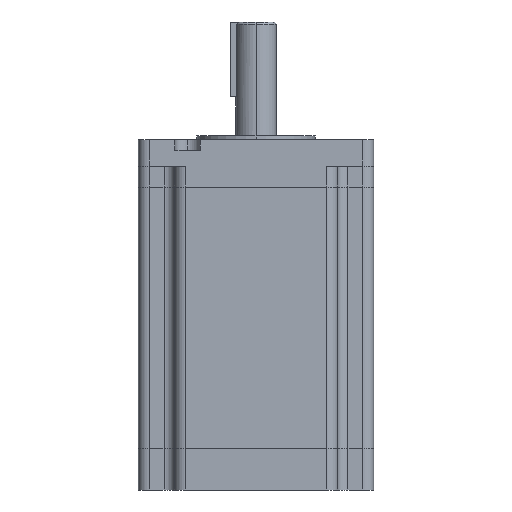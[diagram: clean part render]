
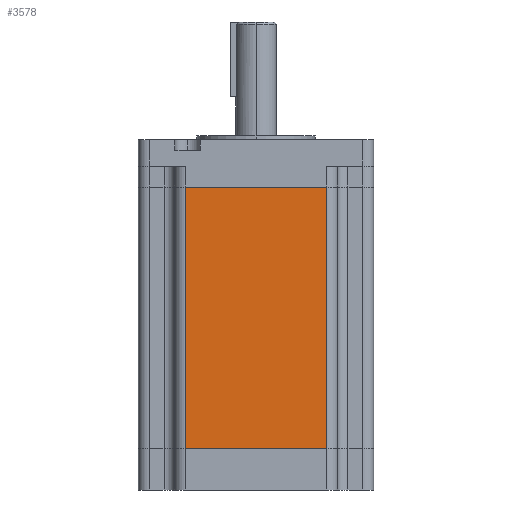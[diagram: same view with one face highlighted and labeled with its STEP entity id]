
A CAD part, left-side view. The second image highlights one B-rep face of the part: STEP entity #3578.
In plain terms, the highlighted planar face has unit normal (-1, 0, 0).
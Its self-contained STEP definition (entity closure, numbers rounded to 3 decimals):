
#174 = LINE ( 'NONE', #5391, #2235 ) ;
#222 = VERTEX_POINT ( 'NONE', #5281 ) ;
#468 = VECTOR ( 'NONE', #698, 1000. ) ;
#651 = DIRECTION ( 'NONE',  ( 1., 0., 0. ) ) ;
#698 = DIRECTION ( 'NONE',  ( 0., 0., -1. ) ) ;
#878 = LINE ( 'NONE', #1228, #1916 ) ;
#995 = VECTOR ( 'NONE', #4466, 1000. ) ;
#1228 = CARTESIAN_POINT ( 'NONE',  ( -55.267, -0.25, 0. ) ) ;
#1417 = CARTESIAN_POINT ( 'NONE',  ( -55.267, -33.25, 0. ) ) ;
#1430 = EDGE_CURVE ( 'NONE', #222, #2620, #878, .T. ) ;
#1512 = CARTESIAN_POINT ( 'NONE',  ( -55.267, -33.25, 122.1 ) ) ;
#1677 = FACE_OUTER_BOUND ( 'NONE', #2992, .T. ) ;
#1893 = ORIENTED_EDGE ( 'NONE', *, *, #3004, .F. ) ;
#1916 = VECTOR ( 'NONE', #2149, 1000. ) ;
#2149 = DIRECTION ( 'NONE',  ( 0., -1., 0. ) ) ;
#2235 = VECTOR ( 'NONE', #2317, 1000. ) ;
#2317 = DIRECTION ( 'NONE',  ( 0., 0., -1. ) ) ;
#2320 = LINE ( 'NONE', #4016, #995 ) ;
#2517 = EDGE_CURVE ( 'NONE', #4430, #222, #4875, .T. ) ;
#2620 = VERTEX_POINT ( 'NONE', #1417 ) ;
#2754 = VERTEX_POINT ( 'NONE', #1512 ) ;
#2829 = CARTESIAN_POINT ( 'NONE',  ( -55.267, -0.25, 122.1 ) ) ;
#2845 = PLANE ( 'NONE',  #4496 ) ;
#2992 = EDGE_LOOP ( 'NONE', ( #3040, #5340, #1893, #3199 ) ) ;
#3004 = EDGE_CURVE ( 'NONE', #4430, #2754, #2320, .T. ) ;
#3040 = ORIENTED_EDGE ( 'NONE', *, *, #1430, .T. ) ;
#3199 = ORIENTED_EDGE ( 'NONE', *, *, #2517, .T. ) ;
#3578 = ADVANCED_FACE ( 'NONE', ( #1677 ), #2845, .F. ) ;
#3733 = DIRECTION ( 'NONE',  ( 0., 1., 0. ) ) ;
#3784 = CARTESIAN_POINT ( 'NONE',  ( -55.267, 32.75, 122.1 ) ) ;
#4016 = CARTESIAN_POINT ( 'NONE',  ( -55.267, 32.75, 122.1 ) ) ;
#4430 = VERTEX_POINT ( 'NONE', #5055 ) ;
#4466 = DIRECTION ( 'NONE',  ( 0., -1., 0. ) ) ;
#4496 = AXIS2_PLACEMENT_3D ( 'NONE', #2829, #651, #3733 ) ;
#4875 = LINE ( 'NONE', #3784, #468 ) ;
#5055 = CARTESIAN_POINT ( 'NONE',  ( -55.267, 32.75, 122.1 ) ) ;
#5281 = CARTESIAN_POINT ( 'NONE',  ( -55.267, 32.75, 0. ) ) ;
#5340 = ORIENTED_EDGE ( 'NONE', *, *, #5488, .F. ) ;
#5391 = CARTESIAN_POINT ( 'NONE',  ( -55.267, -33.25, 122.1 ) ) ;
#5488 = EDGE_CURVE ( 'NONE', #2754, #2620, #174, .T. ) ;
